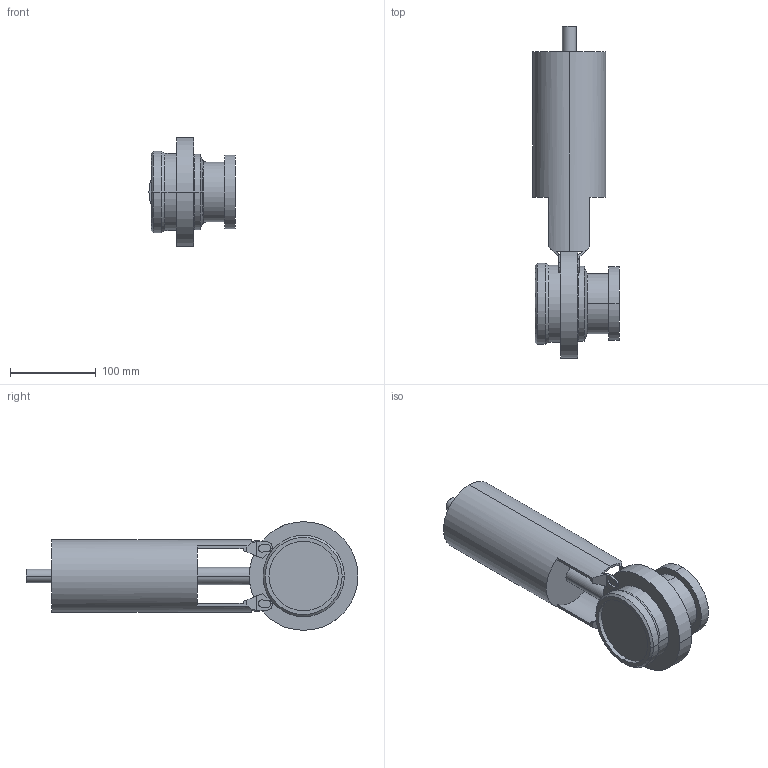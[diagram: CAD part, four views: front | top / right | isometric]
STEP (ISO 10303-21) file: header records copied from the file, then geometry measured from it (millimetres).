
FILE_DESCRIPTION(('Creo Elements/Direct Modeling STEP Export'),'2;1');
FILE_NAME('SV1-65-FZ-1K-2G.stp','2012-10-23T11:16:25',(''),(''),'Creo Elements/Direct Modeling STEP processor for AP214 (Solid Model)','Creo Elements/Direct Modeling 17.0D 15-Jul-2011 (C) Parametric Technology GmbH','');
FILE_SCHEMA(('AUTOMOTIVE_DESIGN { 1 0 10303 214 1 1 1 1 }'));
Length unit declared in the file: millimetre
Products named in the file (2): SV1-65-FZ-1K-2G
Assembly tree (1 placements, depth 2):
  SV1-65-FZ-1K-2G
    SV1-65-FZ-1K-2G
Bounding box: 100.7 x 387.93 x 127 mm (x, y, z)
Volume: 1666428.3 mm3; surface area: 136363.7 mm2
Topology: 1 solids, 1 shells, 117 faces, 313 edges, 200 vertices
Faces by surface type: plane 73, cylinder 34, cone 6, torus 4
Entity records: 3517 total; most frequent: CARTESIAN_POINT 629, ORIENTED_EDGE 626, DIRECTION 561, EDGE_CURVE 313, VERTEX_POINT 200, AXIS2_PLACEMENT_3D 188, VECTOR 185, LINE 185
